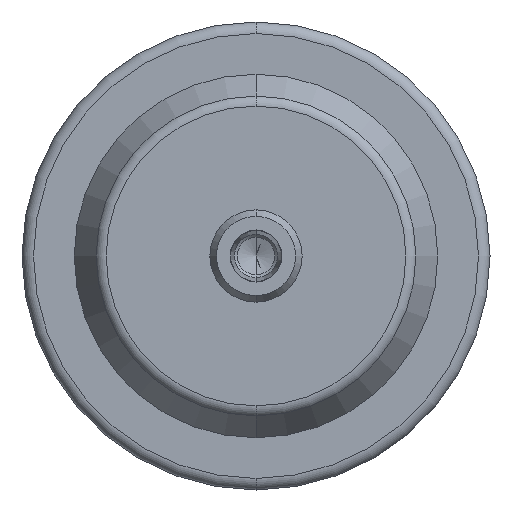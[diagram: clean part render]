
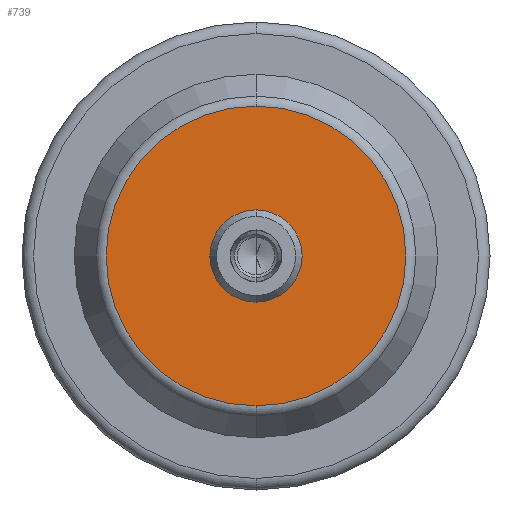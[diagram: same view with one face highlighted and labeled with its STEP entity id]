
A CAD part, front view. The second image highlights one B-rep face of the part: STEP entity #739.
In plain terms, the highlighted planar face has unit normal (0, -1, 0).
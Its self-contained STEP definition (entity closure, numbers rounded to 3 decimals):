
#191 = CARTESIAN_POINT ( 'NONE',  ( 0., 0., 0. ) ) ;
#256 = CARTESIAN_POINT ( 'NONE',  ( 0., 0., 0. ) ) ;
#470 = CIRCLE ( 'NONE', #1104, 7.75 ) ;
#530 = AXIS2_PLACEMENT_3D ( 'NONE', #3221, #9388, #1679 ) ;
#736 = CIRCLE ( 'NONE', #530, 25.969 ) ;
#739 = ADVANCED_FACE ( 'NONE', ( #3411, #3885 ), #4702, .T. ) ;
#936 = CARTESIAN_POINT ( 'NONE',  ( 0., 0., 0. ) ) ;
#1104 = AXIS2_PLACEMENT_3D ( 'NONE', #191, #2480, #4751 ) ;
#1145 = EDGE_CURVE ( 'NONE', #3624, #6453, #8256, .T. ) ;
#1211 = CIRCLE ( 'NONE', #3774, 25.969 ) ;
#1669 = EDGE_CURVE ( 'NONE', #9799, #4265, #736, .T. ) ;
#1679 = DIRECTION ( 'NONE',  ( 0., 0., 1. ) ) ;
#1743 = DIRECTION ( 'NONE',  ( 0., 0., 1. ) ) ;
#2190 = CARTESIAN_POINT ( 'NONE',  ( 0., 0., 25.969 ) ) ;
#2433 = DIRECTION ( 'NONE',  ( 0., -1., 0. ) ) ;
#2480 = DIRECTION ( 'NONE',  ( 0., 1., 0. ) ) ;
#2558 = CARTESIAN_POINT ( 'NONE',  ( 0., 0., -7.75 ) ) ;
#2833 = CARTESIAN_POINT ( 'NONE',  ( 0., 0., 7.75 ) ) ;
#2901 = CARTESIAN_POINT ( 'NONE',  ( 0., 0., -25.969 ) ) ;
#2942 = ORIENTED_EDGE ( 'NONE', *, *, #5599, .T. ) ;
#3221 = CARTESIAN_POINT ( 'NONE',  ( 0., 0., 0. ) ) ;
#3333 = ORIENTED_EDGE ( 'NONE', *, *, #8165, .F. ) ;
#3356 = DIRECTION ( 'NONE',  ( 0., 1., 0. ) ) ;
#3411 = FACE_BOUND ( 'NONE', #9069, .T. ) ;
#3624 = VERTEX_POINT ( 'NONE', #2558 ) ;
#3742 = AXIS2_PLACEMENT_3D ( 'NONE', #936, #2433, #4734 ) ;
#3774 = AXIS2_PLACEMENT_3D ( 'NONE', #4113, #3356, #1743 ) ;
#3885 = FACE_OUTER_BOUND ( 'NONE', #9312, .T. ) ;
#4113 = CARTESIAN_POINT ( 'NONE',  ( 0., 0., 0. ) ) ;
#4265 = VERTEX_POINT ( 'NONE', #2190 ) ;
#4702 = PLANE ( 'NONE',  #3742 ) ;
#4734 = DIRECTION ( 'NONE',  ( 0., 0., -1. ) ) ;
#4751 = DIRECTION ( 'NONE',  ( 0., 0., 1. ) ) ;
#5599 = EDGE_CURVE ( 'NONE', #6453, #3624, #470, .T. ) ;
#5623 = ORIENTED_EDGE ( 'NONE', *, *, #1145, .T. ) ;
#6258 = DIRECTION ( 'NONE',  ( 0., 1., 0. ) ) ;
#6453 = VERTEX_POINT ( 'NONE', #2833 ) ;
#7997 = AXIS2_PLACEMENT_3D ( 'NONE', #256, #6258, #9366 ) ;
#8165 = EDGE_CURVE ( 'NONE', #4265, #9799, #1211, .T. ) ;
#8256 = CIRCLE ( 'NONE', #7997, 7.75 ) ;
#9069 = EDGE_LOOP ( 'NONE', ( #2942, #5623 ) ) ;
#9312 = EDGE_LOOP ( 'NONE', ( #3333, #9549 ) ) ;
#9366 = DIRECTION ( 'NONE',  ( 0., 0., 1. ) ) ;
#9388 = DIRECTION ( 'NONE',  ( 0., 1., 0. ) ) ;
#9549 = ORIENTED_EDGE ( 'NONE', *, *, #1669, .F. ) ;
#9799 = VERTEX_POINT ( 'NONE', #2901 ) ;
